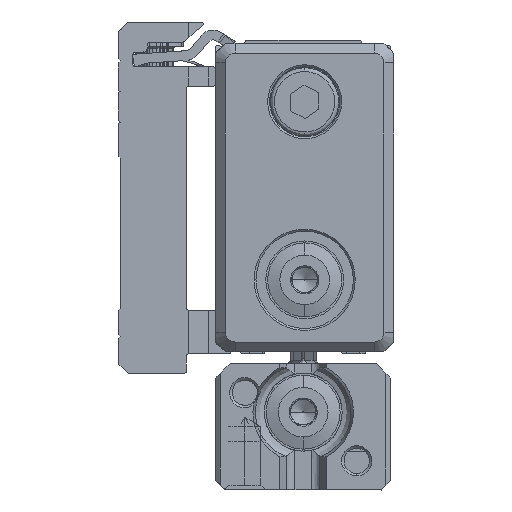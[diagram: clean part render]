
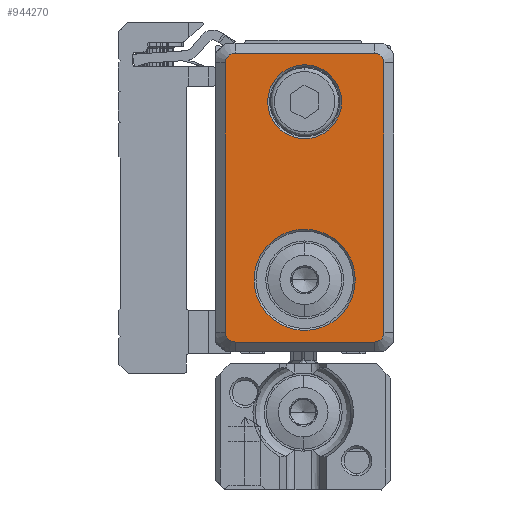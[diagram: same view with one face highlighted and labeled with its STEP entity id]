
A CAD part, left-side view. The second image highlights one B-rep face of the part: STEP entity #944270.
In plain terms, the highlighted planar face has unit normal (-1, 0, 0).
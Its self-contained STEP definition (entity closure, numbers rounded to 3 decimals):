
#908510=CARTESIAN_POINT('',(-677.138,31.,
-50.583));
#908520=VERTEX_POINT('',#908510);
#909330=CARTESIAN_POINT('',(-677.138,30.,
-51.583));
#909340=VERTEX_POINT('',#909330);
#909370=CARTESIAN_POINT('',(-677.138,31.,
-51.583));
#909380=DIRECTION('',(1.,0.,0.));
#909390=DIRECTION('',(0.,1.,0.));
#909400=AXIS2_PLACEMENT_3D('',#909370,#909380,#909390);
#909410=CIRCLE('',#909400,1.);
#909420=EDGE_CURVE('',#908520,#909340,#909410,.T.);
#917680=CARTESIAN_POINT('',(-677.138,43.35,
-56.983));
#917690=VERTEX_POINT('',#917680);
#917720=CARTESIAN_POINT('',(-677.138,38.15,
-56.983));
#917730=DIRECTION('',(1.,0.,0.));
#917740=DIRECTION('',(0.,-1.,0.));
#917750=AXIS2_PLACEMENT_3D('',#917720,#917730,#917740);
#917760=CIRCLE('',#917750,5.2);
#917770=CARTESIAN_POINT('',(-677.138,32.95,
-56.983));
#917780=VERTEX_POINT('',#917770);
#917790=EDGE_CURVE('',#917690,#917780,#917760,.T.);
#931580=CARTESIAN_POINT('',(-677.138,45.3,
-50.583));
#931590=VERTEX_POINT('',#931580);
#931640=CARTESIAN_POINT('',(-677.138,46.75,
-50.583));
#931650=DIRECTION('',(0.,1.,0.));
#931660=VECTOR('',#931650,1.);
#931670=LINE('',#931640,#931660);
#931680=EDGE_CURVE('',#908520,#931590,#931670,.T.);
#931840=CARTESIAN_POINT('',(-677.138,46.3,
-51.583));
#931850=VERTEX_POINT('',#931840);
#932380=CARTESIAN_POINT('',(-677.138,45.3,
-51.583));
#932390=DIRECTION('',(1.,0.,0.));
#932400=DIRECTION('',(0.,1.,0.));
#932410=AXIS2_PLACEMENT_3D('',#932380,#932390,#932400);
#932420=CIRCLE('',#932410,1.);
#932430=EDGE_CURVE('',#931850,#931590,#932420,.T.);
#932640=CARTESIAN_POINT('',(-677.138,46.3,
-79.283));
#932650=VERTEX_POINT('',#932640);
#932770=CARTESIAN_POINT('',(-677.138,46.3,
-49.133));
#932780=DIRECTION('',(0.,0.,-1.));
#932790=VECTOR('',#932780,1.);
#932800=LINE('',#932770,#932790);
#932810=EDGE_CURVE('',#931850,#932650,#932800,.T.);
#932940=CARTESIAN_POINT('',(-677.138,45.3,
-79.283));
#932950=DIRECTION('',(1.,0.,0.));
#932960=DIRECTION('',(0.,1.,0.));
#932970=AXIS2_PLACEMENT_3D('',#932940,#932950,#932960);
#932980=CIRCLE('',#932970,1.);
#932990=CARTESIAN_POINT('',(-677.138,45.3,
-80.283));
#933000=VERTEX_POINT('',#932990);
#933010=EDGE_CURVE('',#933000,#932650,#932980,.T.);
#935330=CARTESIAN_POINT('',(-677.138,31.,
-80.283));
#935340=VERTEX_POINT('',#935330);
#935390=CARTESIAN_POINT('',(-677.138,46.75,
-80.283));
#935400=DIRECTION('',(0.,-1.,0.));
#935410=VECTOR('',#935400,1.);
#935420=LINE('',#935390,#935410);
#935430=EDGE_CURVE('',#933000,#935340,#935420,.T.);
#935790=CARTESIAN_POINT('',(-677.138,31.,
-79.283));
#935800=DIRECTION('',(1.,0.,0.));
#935810=DIRECTION('',(0.,1.,0.));
#935820=AXIS2_PLACEMENT_3D('',#935790,#935800,#935810);
#935830=CIRCLE('',#935820,1.);
#935840=CARTESIAN_POINT('',(-677.138,30.,
-79.283));
#935850=VERTEX_POINT('',#935840);
#935860=EDGE_CURVE('',#935850,#935340,#935830,.T.);
#936130=CARTESIAN_POINT('',(-677.138,30.,
-49.133));
#936140=DIRECTION('',(0.,0.,1.));
#936150=VECTOR('',#936140,1.);
#936160=LINE('',#936130,#936150);
#936170=EDGE_CURVE('',#935850,#909340,#936160,.T.);
#943920=CARTESIAN_POINT('',(-677.138,38.15,
-65.583));
#943930=DIRECTION('',(1.,0.,0.));
#943940=DIRECTION('',(0.,1.,0.));
#943950=AXIS2_PLACEMENT_3D('',#943920,#943930,#943940);
#943960=PLANE('',#943950);
#943970=EDGE_CURVE('',#917780,#917690,#917760,.T.);
#943980=ORIENTED_EDGE('',*,*,#943970,.T.);
#943990=ORIENTED_EDGE('',*,*,#917790,.T.);
#944000=EDGE_LOOP('',(#943990,#943980));
#944010=FACE_BOUND('',#944000,.T.);
#944020=CARTESIAN_POINT('',(-677.138,38.15,
-75.283));
#944030=DIRECTION('',(-1.,0.,0.));
#944040=DIRECTION('',(0.,1.,0.));
#944050=AXIS2_PLACEMENT_3D('',#944020,#944030,#944040);
#944060=CIRCLE('',#944050,3.8);
#944070=CARTESIAN_POINT('',(-677.138,34.35,
-75.283));
#944080=VERTEX_POINT('',#944070);
#944090=CARTESIAN_POINT('',(-677.138,41.95,
-75.283));
#944100=VERTEX_POINT('',#944090);
#944110=EDGE_CURVE('',#944080,#944100,#944060,.T.);
#944120=ORIENTED_EDGE('',*,*,#944110,.F.);
#944130=EDGE_CURVE('',#944100,#944080,#944060,.T.);
#944140=ORIENTED_EDGE('',*,*,#944130,.F.);
#944150=EDGE_LOOP('',(#944140,#944120));
#944160=FACE_BOUND('',#944150,.T.);
#944170=ORIENTED_EDGE('',*,*,#935430,.T.);
#944180=ORIENTED_EDGE('',*,*,#933010,.F.);
#944190=ORIENTED_EDGE('',*,*,#932810,.T.);
#944200=ORIENTED_EDGE('',*,*,#932430,.F.);
#944210=ORIENTED_EDGE('',*,*,#931680,.T.);
#944220=ORIENTED_EDGE('',*,*,#909420,.F.);
#944230=ORIENTED_EDGE('',*,*,#936170,.T.);
#944240=ORIENTED_EDGE('',*,*,#935860,.F.);
#944250=EDGE_LOOP('',(#944240,#944230,#944220,#944210,#944200,#944190,
#944180,#944170));
#944260=FACE_OUTER_BOUND('',#944250,.T.);
#944270=ADVANCED_FACE('',(#944010,#944160,#944260),#943960,.F.);
